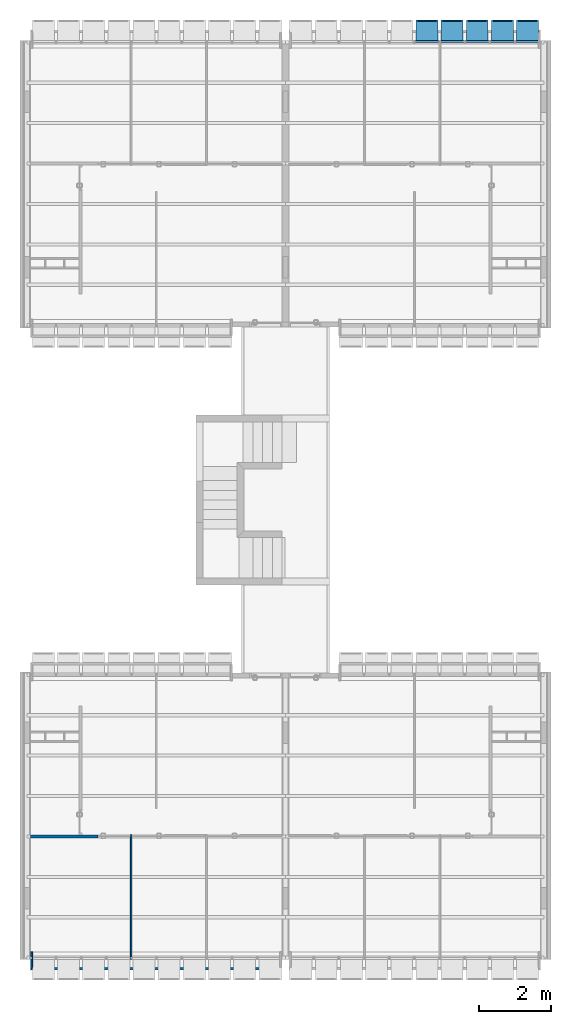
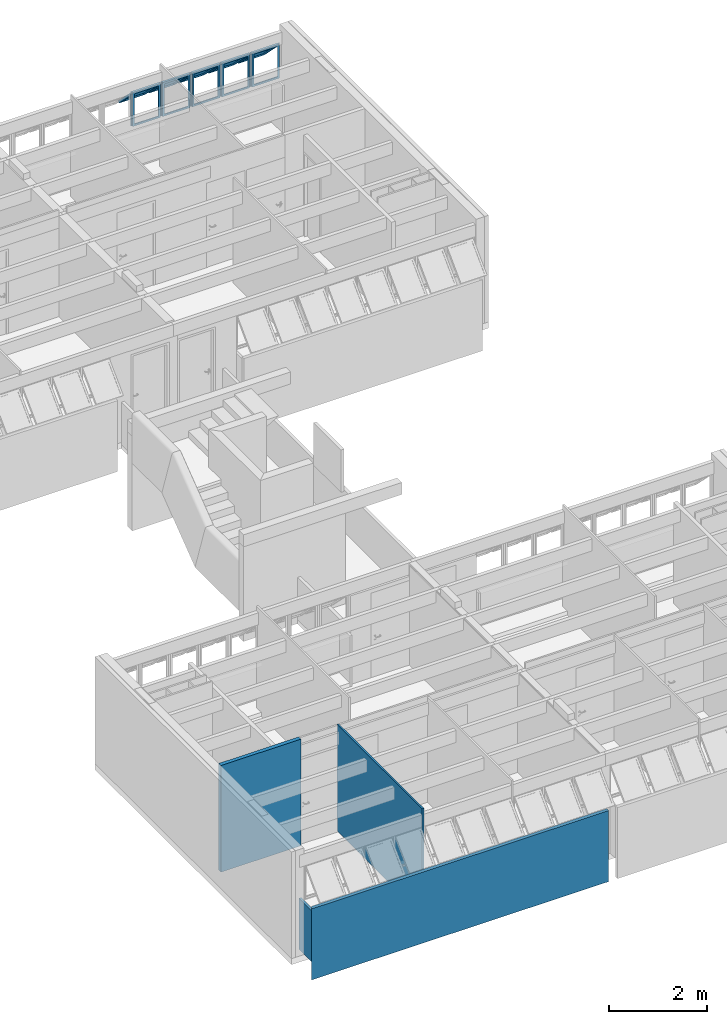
# One storey, part 17 of 41: 5 plates, 4 walls, 1 element without a shape of its own.
"""IFC4 building model written with IfcOpenShell, lengths in millimetres."""

from ifc_helpers import new_model, entity, si_unit, converted_unit, derived_unit, direction, frame, origin_with_axes, place, context, subcontext, project, spatial, line, indexed_curve, outline, extrude, polygons, source, transform, mapped, material, layer, layer_set, layer_usage, constituent, constituent_set, type_object, element, aggregate, save


model = new_model("IFC4")

# Units and contexts
model_context = context("Model", 3, precision=0.01, world=origin_with_axes(), true_north=direction((0.0, 1.0)))
body_context = subcontext(model_context, "Body", "Model", "MODEL_VIEW")
ifc_project = project(units=[si_unit("LENGTHUNIT", "METRE", prefix="MILLI"), si_unit("AREAUNIT", "SQUARE_METRE"), si_unit("VOLUMEUNIT", "CUBIC_METRE"), converted_unit("PLANEANGLEUNIT", "DEGREE", entity("IfcPlaneAngleMeasure", 0.0174532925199), si_unit("PLANEANGLEUNIT", "RADIAN"), dimensions=[0, 0, 0, 0, 0, 0, 0]), converted_unit("TIMEUNIT", "Year", entity("IfcTimeMeasure", 31556926.0), si_unit("TIMEUNIT", "SECOND"), dimensions=[0, 0, 1, 0, 0, 0, 0]), si_unit("MASSUNIT", "GRAM", prefix="KILO"), si_unit("THERMODYNAMICTEMPERATUREUNIT", "DEGREE_CELSIUS"), si_unit("LUMINOUSINTENSITYUNIT", "LUMEN"), si_unit("ENERGYUNIT", "JOULE", prefix="MEGA"), derived_unit("THERMALCONDUCTANCEUNIT", [(si_unit("POWERUNIT", "WATT"), 1), (si_unit("LENGTHUNIT", "METRE"), -1), (si_unit("THERMODYNAMICTEMPERATUREUNIT", "KELVIN"), -1)]), derived_unit("SPECIFICHEATCAPACITYUNIT", [(si_unit("ENERGYUNIT", "JOULE"), 1), (si_unit("MASSUNIT", "GRAM", prefix="KILO"), -1), (si_unit("THERMODYNAMICTEMPERATUREUNIT", "KELVIN"), -1)]), derived_unit("MASSDENSITYUNIT", [(si_unit("MASSUNIT", "GRAM", prefix="KILO"), 1), (si_unit("VOLUMEUNIT", "CUBIC_METRE"), -1)])], contexts=[model_context])

# Site, building, storey
site_placement = place(None, origin_with_axes())
site = spatial("IfcSite", under=ifc_project, at=site_placement, Name="Local", CompositionType="ELEMENT")
building_placement = place(site_placement, origin_with_axes())
building = spatial("IfcBuilding", under=site, at=building_placement, Name="Construção", CompositionType="ELEMENT")
storey_placement = place(building_placement, frame((0.0, 0.0, 2650.0), z_axis=(0.0, 0.0, 1.0), x_axis=(1.0, 0.0, 0.0)))
storey = spatial("IfcBuildingStorey", under=building, at=storey_placement, Name="Segundo Pavimento", CompositionType="ELEMENT", Elevation=2650.0)

# Window, plates
window_type = type_object("IfcWindowType", Name="Tipo de Parede Cortina", PartitioningType="NOTDEFINED", PredefinedType="NOTDEFINED")
window_placement = place(storey_placement, frame((8520.0, 25844.9790225, 1355.02054151), z_axis=(0.0, 0.0, 1.0), x_axis=(1.0, 0.0, 0.0)))
window = element("IfcWindow", 1, at=window_placement, inside=storey, type_object=window_type, Name="APTO8-JANELA-001", PredefinedType="NOTDEFINED")
ifc_material_1 = material(Name="Alumínio")
ifc_constituent_1 = constituent(ifc_material_1, Name="Alumínio")
ifc_material_2 = material(Name="Vidro")
ifc_constituent_2 = constituent(ifc_material_2, Name="Vidro")
ifc_constituent_set_1 = constituent_set(constituents=[ifc_constituent_1, ifc_constituent_2])
plate_type = type_object("IfcPlateType", Name="Painel Principal 690 x 845 x 20", PredefinedType="CURTAIN_PANEL")
shared_shape_1 = source(origin_with_axes(), body_context, "Body", "Tessellation", [
    polygons([(25.0000036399, 0.0, -40.0), (674.999997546, 0.0, -40.0), (674.999997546, 0.0, -35.0), (25.0000036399, 0.0, -35.0), (70.0000036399, 45.0, -40.0), (629.999997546, 45.0, -40.0), (629.999997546, 45.0, -35.0), (70.0000036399, 45.0, -35.0)], [[[1, 2, 3, 4]], [[1, 5, 6, 2]], [[2, 6, 7, 3]], [[4, 3, 7, 8]], [[5, 1, 4, 8]], [[6, 5, 8, 7]]], closed=True),
    polygons([(674.999997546, 0.0, -40.0), (674.999997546, 844.999891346, -40.0), (674.999997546, 844.999891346, -35.0), (674.999997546, 0.0, -35.0), (629.999997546, 45.0, -40.0), (629.999997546, 799.999891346, -40.0), (629.999997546, 799.999891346, -35.0), (629.999997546, 45.0, -35.0)], [[[1, 2, 3, 4]], [[1, 5, 6, 2]], [[2, 6, 7, 3]], [[4, 3, 7, 8]], [[5, 1, 4, 8]], [[6, 5, 8, 7]]], closed=True),
    polygons([(25.0000036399, 844.999891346, -40.0), (70.0000036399, 799.999891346, -40.0), (70.0000036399, 799.999891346, -35.0), (25.0000036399, 844.999891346, -35.0), (674.999997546, 844.999891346, -40.0), (629.999997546, 799.999891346, -40.0), (629.999997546, 799.999891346, -35.0), (674.999997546, 844.999891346, -35.0)], [[[1, 2, 3, 4]], [[1, 5, 6, 2]], [[2, 6, 7, 3]], [[4, 3, 7, 8]], [[5, 1, 4, 8]], [[6, 5, 8, 7]]], closed=True),
    polygons([(25.0000036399, 0.0, -40.0), (70.0000036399, 45.0, -40.0), (70.0000036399, 45.0, -35.0), (25.0000036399, 0.0, -35.0), (25.0000036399, 844.999891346, -40.0), (70.0000036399, 799.999891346, -40.0), (70.0000036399, 799.999891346, -35.0), (25.0000036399, 844.999891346, -35.0)], [[[1, 2, 3, 4]], [[1, 5, 6, 2]], [[2, 6, 7, 3]], [[4, 3, 7, 8]], [[5, 1, 4, 8]], [[6, 5, 8, 7]]], closed=True),
    polygons([(25.0000036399, 0.0, -35.0), (674.999997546, 0.0, -35.0), (674.999997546, 0.0, 15.0), (25.0000036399, 0.0, 15.0), (45.0000036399, 20.0, -35.0), (654.999997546, 20.0, -35.0), (654.999997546, 20.0, 15.0), (45.0000036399, 20.0, 15.0)], [[[1, 2, 3, 4]], [[1, 5, 6, 2]], [[2, 6, 7, 3]], [[4, 3, 7, 8]], [[5, 1, 4, 8]], [[6, 5, 8, 7]]], closed=True),
    polygons([(674.999997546, 0.0, -35.0), (674.999997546, 844.999891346, -35.0), (674.999997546, 844.999891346, 15.0), (674.999997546, 0.0, 15.0), (654.999997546, 20.0, -35.0), (654.999997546, 824.999891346, -35.0), (654.999997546, 824.999891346, 15.0), (654.999997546, 20.0, 15.0)], [[[1, 2, 3, 4]], [[1, 5, 6, 2]], [[2, 6, 7, 3]], [[4, 3, 7, 8]], [[5, 1, 4, 8]], [[6, 5, 8, 7]]], closed=True),
    polygons([(25.0000036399, 844.999891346, -35.0), (45.0000036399, 824.999891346, -35.0), (45.0000036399, 824.999891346, 15.0), (25.0000036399, 844.999891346, 15.0), (674.999997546, 844.999891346, -35.0), (654.999997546, 824.999891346, -35.0), (654.999997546, 824.999891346, 15.0), (674.999997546, 844.999891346, 15.0)], [[[1, 2, 3, 4]], [[1, 5, 6, 2]], [[2, 6, 7, 3]], [[4, 3, 7, 8]], [[5, 1, 4, 8]], [[6, 5, 8, 7]]], closed=True),
    polygons([(25.0000036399, 0.0, -35.0), (45.0000036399, 20.0, -35.0), (45.0000036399, 20.0, 15.0), (25.0000036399, 0.0, 15.0), (25.0000036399, 844.999891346, -35.0), (45.0000036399, 824.999891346, -35.0), (45.0000036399, 824.999891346, 15.0), (25.0000036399, 844.999891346, 15.0)], [[[1, 2, 3, 4]], [[1, 5, 6, 2]], [[2, 6, 7, 3]], [[4, 3, 7, 8]], [[5, 1, 4, 8]], [[6, 5, 8, 7]]], closed=True),
    polygons([(694.999995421, 0.0, -10.0), (694.999995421, 844.999891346, -10.0), (694.999995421, 844.999891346, 10.0), (694.999995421, 0.0, 10.0), (674.999997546, 0.0, -10.0), (674.999997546, 844.999891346, -10.0), (674.999997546, 844.999891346, 10.0), (674.999997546, 0.0, 10.0)], [[[1, 2, 3, 4]], [[1, 5, 6, 2]], [[2, 6, 7, 3]], [[4, 3, 7, 8]], [[5, 1, 4, 8]], [[6, 5, 8, 7]]], closed=True),
    polygons([(5.00000576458, 844.999891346, -10.0), (5.00000576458, 0.0, -10.0), (5.00000576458, 0.0, 10.0), (5.00000576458, 844.999891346, 10.0), (25.0000036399, 844.999891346, -10.0), (25.0000036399, 0.0, -10.0), (25.0000036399, 0.0, 10.0), (25.0000036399, 844.999891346, 10.0)], [[[1, 2, 3, 4]], [[1, 5, 6, 2]], [[2, 6, 7, 3]], [[4, 3, 7, 8]], [[5, 1, 4, 8]], [[6, 5, 8, 7]]], closed=True),
    polygons([(90.0000036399, 252.243475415, 517.045737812), (90.0000036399, 757.824747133, 11.4644660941), (90.0000036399, 796.715620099, 50.3553390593), (90.0000036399, 291.13434838, 555.936610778), (45.0000036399, 220.423670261, 548.865542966), (45.0000036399, 789.644552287, -20.3553390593), (45.0000036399, 828.535425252, 18.5355339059), (45.0000036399, 259.314543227, 587.756415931)], [[[1, 2, 3, 4]], [[1, 5, 6, 2]], [[2, 6, 7, 3]], [[4, 3, 7, 8]], [[5, 1, 4, 8]], [[6, 5, 8, 7]]], closed=True),
    polygons([(654.999997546, 220.423670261, 548.865542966), (654.999997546, 789.644552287, -20.3553390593), (654.999997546, 828.535425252, 18.5355339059), (654.999997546, 259.314543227, 587.756415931), (609.999997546, 252.243475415, 517.045737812), (609.999997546, 757.824747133, 11.4644660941), (609.999997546, 796.715620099, 50.3553390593), (609.999997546, 291.13434838, 555.936610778)], [[[1, 2, 3, 4]], [[1, 5, 6, 2]], [[2, 6, 7, 3]], [[4, 3, 7, 8]], [[5, 1, 4, 8]], [[6, 5, 8, 7]]], closed=True),
    polygons([(654.999997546, 220.423670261, 548.865542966), (609.999997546, 252.243475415, 517.045737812), (609.999997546, 291.13434838, 555.936610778), (654.999997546, 259.314543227, 587.756415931), (45.0000036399, 220.423670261, 548.865542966), (90.0000036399, 252.243475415, 517.045737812), (90.0000036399, 291.13434838, 555.936610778), (45.0000036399, 259.314543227, 587.756415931)], [[[1, 2, 3, 4]], [[1, 5, 6, 2]], [[2, 6, 7, 3]], [[4, 3, 7, 8]], [[5, 1, 4, 8]], [[6, 5, 8, 7]]], closed=True),
    polygons([(45.0000036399, 789.644552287, -20.3553390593), (90.0000036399, 757.824747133, 11.4644660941), (90.0000036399, 796.715620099, 50.3553390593), (45.0000036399, 828.535425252, 18.5355339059), (654.999997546, 789.644552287, -20.3553390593), (609.999997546, 757.824747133, 11.4644660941), (609.999997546, 796.715620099, 50.3553390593), (654.999997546, 828.535425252, 18.5355339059)], [[[1, 2, 3, 4]], [[1, 5, 6, 2]], [[2, 6, 7, 3]], [[4, 3, 7, 8]], [[5, 1, 4, 8]], [[6, 5, 8, 7]]], closed=True),
    polygons([(90.0000036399, 272.749572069, 537.551834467), (609.999997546, 272.749572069, 537.551834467), (609.999997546, 284.063280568, 548.865542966), (90.0000036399, 284.063280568, 548.865542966), (90.0000036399, 778.330843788, 31.9705627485), (609.999997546, 778.330843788, 31.9705627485), (609.999997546, 789.644552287, 43.2842712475), (90.0000036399, 789.644552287, 43.2842712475)], [[[1, 2, 3, 4]], [[1, 5, 6, 2]], [[2, 6, 7, 3]], [[4, 3, 7, 8]], [[5, 1, 4, 8]], [[6, 5, 8, 7]]], closed=True),
])
plate_1_placement = place(window_placement, frame((3500.0, 0.0, 422.499945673), z_axis=(0.0, 0.0, 1.0), x_axis=(1.0, 0.0, 0.0)))
plate_1 = element("IfcPlate", 2, at=plate_1_placement, type_object=plate_type, material=ifc_constituent_set_1, Name="APTO8-Painel-Prin-013", PredefinedType="CURTAIN_PANEL", context=body_context, shape_type="MappedRepresentation", body=[
    mapped(shared_shape_1, transform((350.0, 0.0, -422.499945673), x_axis=(-1.0, 0.0, 0.0), y_axis=(0.0, 0.0, 1.0), z_axis=(0.0, 1.0, 0.0))),
])
ifc_constituent_3 = constituent(ifc_material_1, Name="Alumínio")
ifc_constituent_4 = constituent(ifc_material_2, Name="Vidro")
ifc_constituent_set_2 = constituent_set(constituents=[ifc_constituent_3, ifc_constituent_4])
shared_shape_2 = source(origin_with_axes(), body_context, "Body", "Tessellation", [
    polygons([(25.0000036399, 0.0, -40.0), (674.999997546, 0.0, -40.0), (674.999997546, 0.0, -35.0), (25.0000036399, 0.0, -35.0), (70.0000036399, 45.0, -40.0), (629.999997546, 45.0, -40.0), (629.999997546, 45.0, -35.0), (70.0000036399, 45.0, -35.0)], [[[1, 2, 3, 4]], [[1, 5, 6, 2]], [[2, 6, 7, 3]], [[4, 3, 7, 8]], [[5, 1, 4, 8]], [[6, 5, 8, 7]]], closed=True),
    polygons([(674.999997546, 0.0, -40.0), (674.999997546, 844.999891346, -40.0), (674.999997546, 844.999891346, -35.0), (674.999997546, 0.0, -35.0), (629.999997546, 45.0, -40.0), (629.999997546, 799.999891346, -40.0), (629.999997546, 799.999891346, -35.0), (629.999997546, 45.0, -35.0)], [[[1, 2, 3, 4]], [[1, 5, 6, 2]], [[2, 6, 7, 3]], [[4, 3, 7, 8]], [[5, 1, 4, 8]], [[6, 5, 8, 7]]], closed=True),
    polygons([(25.0000036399, 844.999891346, -40.0), (70.0000036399, 799.999891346, -40.0), (70.0000036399, 799.999891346, -35.0), (25.0000036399, 844.999891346, -35.0), (674.999997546, 844.999891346, -40.0), (629.999997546, 799.999891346, -40.0), (629.999997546, 799.999891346, -35.0), (674.999997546, 844.999891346, -35.0)], [[[1, 2, 3, 4]], [[1, 5, 6, 2]], [[2, 6, 7, 3]], [[4, 3, 7, 8]], [[5, 1, 4, 8]], [[6, 5, 8, 7]]], closed=True),
    polygons([(25.0000036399, 0.0, -40.0), (70.0000036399, 45.0, -40.0), (70.0000036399, 45.0, -35.0), (25.0000036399, 0.0, -35.0), (25.0000036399, 844.999891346, -40.0), (70.0000036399, 799.999891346, -40.0), (70.0000036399, 799.999891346, -35.0), (25.0000036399, 844.999891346, -35.0)], [[[1, 2, 3, 4]], [[1, 5, 6, 2]], [[2, 6, 7, 3]], [[4, 3, 7, 8]], [[5, 1, 4, 8]], [[6, 5, 8, 7]]], closed=True),
    polygons([(25.0000036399, 0.0, -35.0), (674.999997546, 0.0, -35.0), (674.999997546, 0.0, 15.0), (25.0000036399, 0.0, 15.0), (45.0000036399, 20.0, -35.0), (654.999997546, 20.0, -35.0), (654.999997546, 20.0, 15.0), (45.0000036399, 20.0, 15.0)], [[[1, 2, 3, 4]], [[1, 5, 6, 2]], [[2, 6, 7, 3]], [[4, 3, 7, 8]], [[5, 1, 4, 8]], [[6, 5, 8, 7]]], closed=True),
    polygons([(674.999997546, 0.0, -35.0), (674.999997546, 844.999891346, -35.0), (674.999997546, 844.999891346, 15.0), (674.999997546, 0.0, 15.0), (654.999997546, 20.0, -35.0), (654.999997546, 824.999891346, -35.0), (654.999997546, 824.999891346, 15.0), (654.999997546, 20.0, 15.0)], [[[1, 2, 3, 4]], [[1, 5, 6, 2]], [[2, 6, 7, 3]], [[4, 3, 7, 8]], [[5, 1, 4, 8]], [[6, 5, 8, 7]]], closed=True),
    polygons([(25.0000036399, 844.999891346, -35.0), (45.0000036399, 824.999891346, -35.0), (45.0000036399, 824.999891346, 15.0), (25.0000036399, 844.999891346, 15.0), (674.999997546, 844.999891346, -35.0), (654.999997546, 824.999891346, -35.0), (654.999997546, 824.999891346, 15.0), (674.999997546, 844.999891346, 15.0)], [[[1, 2, 3, 4]], [[1, 5, 6, 2]], [[2, 6, 7, 3]], [[4, 3, 7, 8]], [[5, 1, 4, 8]], [[6, 5, 8, 7]]], closed=True),
    polygons([(25.0000036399, 0.0, -35.0), (45.0000036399, 20.0, -35.0), (45.0000036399, 20.0, 15.0), (25.0000036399, 0.0, 15.0), (25.0000036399, 844.999891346, -35.0), (45.0000036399, 824.999891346, -35.0), (45.0000036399, 824.999891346, 15.0), (25.0000036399, 844.999891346, 15.0)], [[[1, 2, 3, 4]], [[1, 5, 6, 2]], [[2, 6, 7, 3]], [[4, 3, 7, 8]], [[5, 1, 4, 8]], [[6, 5, 8, 7]]], closed=True),
    polygons([(694.999995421, 0.0, -10.0), (694.999995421, 844.999891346, -10.0), (694.999995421, 844.999891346, 10.0), (694.999995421, 0.0, 10.0), (674.999997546, 0.0, -10.0), (674.999997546, 844.999891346, -10.0), (674.999997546, 844.999891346, 10.0), (674.999997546, 0.0, 10.0)], [[[1, 2, 3, 4]], [[1, 5, 6, 2]], [[2, 6, 7, 3]], [[4, 3, 7, 8]], [[5, 1, 4, 8]], [[6, 5, 8, 7]]], closed=True),
    polygons([(5.00000576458, 844.999891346, -10.0), (5.00000576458, 0.0, -10.0), (5.00000576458, 0.0, 10.0), (5.00000576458, 844.999891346, 10.0), (25.0000036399, 844.999891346, -10.0), (25.0000036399, 0.0, -10.0), (25.0000036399, 0.0, 10.0), (25.0000036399, 844.999891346, 10.0)], [[[1, 2, 3, 4]], [[1, 5, 6, 2]], [[2, 6, 7, 3]], [[4, 3, 7, 8]], [[5, 1, 4, 8]], [[6, 5, 8, 7]]], closed=True),
    polygons([(90.0000036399, 252.243475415, 517.045737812), (90.0000036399, 757.824747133, 11.4644660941), (90.0000036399, 796.715620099, 50.3553390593), (90.0000036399, 291.13434838, 555.936610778), (45.0000036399, 220.423670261, 548.865542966), (45.0000036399, 789.644552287, -20.3553390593), (45.0000036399, 828.535425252, 18.5355339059), (45.0000036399, 259.314543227, 587.756415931)], [[[1, 2, 3, 4]], [[1, 5, 6, 2]], [[2, 6, 7, 3]], [[4, 3, 7, 8]], [[5, 1, 4, 8]], [[6, 5, 8, 7]]], closed=True),
    polygons([(654.999997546, 220.423670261, 548.865542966), (654.999997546, 789.644552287, -20.3553390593), (654.999997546, 828.535425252, 18.5355339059), (654.999997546, 259.314543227, 587.756415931), (609.999997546, 252.243475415, 517.045737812), (609.999997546, 757.824747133, 11.4644660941), (609.999997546, 796.715620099, 50.3553390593), (609.999997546, 291.13434838, 555.936610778)], [[[1, 2, 3, 4]], [[1, 5, 6, 2]], [[2, 6, 7, 3]], [[4, 3, 7, 8]], [[5, 1, 4, 8]], [[6, 5, 8, 7]]], closed=True),
    polygons([(654.999997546, 220.423670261, 548.865542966), (609.999997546, 252.243475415, 517.045737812), (609.999997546, 291.13434838, 555.936610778), (654.999997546, 259.314543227, 587.756415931), (45.0000036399, 220.423670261, 548.865542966), (90.0000036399, 252.243475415, 517.045737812), (90.0000036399, 291.13434838, 555.936610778), (45.0000036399, 259.314543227, 587.756415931)], [[[1, 2, 3, 4]], [[1, 5, 6, 2]], [[2, 6, 7, 3]], [[4, 3, 7, 8]], [[5, 1, 4, 8]], [[6, 5, 8, 7]]], closed=True),
    polygons([(45.0000036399, 789.644552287, -20.3553390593), (90.0000036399, 757.824747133, 11.4644660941), (90.0000036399, 796.715620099, 50.3553390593), (45.0000036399, 828.535425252, 18.5355339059), (654.999997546, 789.644552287, -20.3553390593), (609.999997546, 757.824747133, 11.4644660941), (609.999997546, 796.715620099, 50.3553390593), (654.999997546, 828.535425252, 18.5355339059)], [[[1, 2, 3, 4]], [[1, 5, 6, 2]], [[2, 6, 7, 3]], [[4, 3, 7, 8]], [[5, 1, 4, 8]], [[6, 5, 8, 7]]], closed=True),
    polygons([(90.0000036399, 272.749572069, 537.551834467), (609.999997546, 272.749572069, 537.551834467), (609.999997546, 284.063280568, 548.865542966), (90.0000036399, 284.063280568, 548.865542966), (90.0000036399, 778.330843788, 31.9705627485), (609.999997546, 778.330843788, 31.9705627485), (609.999997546, 789.644552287, 43.2842712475), (90.0000036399, 789.644552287, 43.2842712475)], [[[1, 2, 3, 4]], [[1, 5, 6, 2]], [[2, 6, 7, 3]], [[4, 3, 7, 8]], [[5, 1, 4, 8]], [[6, 5, 8, 7]]], closed=True),
])
plate_2_placement = place(window_placement, frame((5600.0, 0.0, 422.499945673), z_axis=(0.0, 0.0, 1.0), x_axis=(1.0, 0.0, 0.0)))
plate_2 = element("IfcPlate", 3, at=plate_2_placement, type_object=plate_type, material=ifc_constituent_set_2, Name="APTO8-Painel-Prin-013", PredefinedType="CURTAIN_PANEL", context=body_context, shape_type="MappedRepresentation", body=[
    mapped(shared_shape_2, transform((350.0, 0.0, -422.499945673), x_axis=(-1.0, 0.0, 0.0), y_axis=(0.0, 0.0, 1.0), z_axis=(0.0, 1.0, 0.0))),
])
ifc_constituent_5 = constituent(ifc_material_1, Name="Alumínio")
ifc_constituent_6 = constituent(ifc_material_2, Name="Vidro")
ifc_constituent_set_3 = constituent_set(constituents=[ifc_constituent_5, ifc_constituent_6])
plate_3_placement = place(window_placement, frame((4900.0, 0.0, 422.499945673), z_axis=(0.0, 0.0, 1.0), x_axis=(1.0, 0.0, 0.0)))
plate_3 = element("IfcPlate", 4, at=plate_3_placement, type_object=plate_type, material=ifc_constituent_set_3, Name="APTO8-Painel-Prin-013", PredefinedType="CURTAIN_PANEL", context=body_context, shape_type="MappedRepresentation", body=[
    mapped(shared_shape_2, transform((350.0, 0.0, -422.499945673), x_axis=(-1.0, 0.0, 0.0), y_axis=(0.0, 0.0, 1.0), z_axis=(0.0, 1.0, 0.0))),
])
ifc_constituent_7 = constituent(ifc_material_1, Name="Alumínio")
ifc_constituent_8 = constituent(ifc_material_2, Name="Vidro")
ifc_constituent_set_4 = constituent_set(constituents=[ifc_constituent_7, ifc_constituent_8])
shared_shape_3 = source(origin_with_axes(), body_context, "Body", "Tessellation", [
    polygons([(25.0000036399, 0.0, -40.0), (674.999997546, 0.0, -40.0), (674.999997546, 0.0, -35.0), (25.0000036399, 0.0, -35.0), (70.0000036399, 45.0, -40.0), (629.999997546, 45.0, -40.0), (629.999997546, 45.0, -35.0), (70.0000036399, 45.0, -35.0)], [[[1, 2, 3, 4]], [[1, 5, 6, 2]], [[2, 6, 7, 3]], [[4, 3, 7, 8]], [[5, 1, 4, 8]], [[6, 5, 8, 7]]], closed=True),
    polygons([(674.999997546, 0.0, -40.0), (674.999997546, 844.999891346, -40.0), (674.999997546, 844.999891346, -35.0), (674.999997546, 0.0, -35.0), (629.999997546, 45.0, -40.0), (629.999997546, 799.999891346, -40.0), (629.999997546, 799.999891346, -35.0), (629.999997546, 45.0, -35.0)], [[[1, 2, 3, 4]], [[1, 5, 6, 2]], [[2, 6, 7, 3]], [[4, 3, 7, 8]], [[5, 1, 4, 8]], [[6, 5, 8, 7]]], closed=True),
    polygons([(25.0000036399, 844.999891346, -40.0), (70.0000036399, 799.999891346, -40.0), (70.0000036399, 799.999891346, -35.0), (25.0000036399, 844.999891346, -35.0), (674.999997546, 844.999891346, -40.0), (629.999997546, 799.999891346, -40.0), (629.999997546, 799.999891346, -35.0), (674.999997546, 844.999891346, -35.0)], [[[1, 2, 3, 4]], [[1, 5, 6, 2]], [[2, 6, 7, 3]], [[4, 3, 7, 8]], [[5, 1, 4, 8]], [[6, 5, 8, 7]]], closed=True),
    polygons([(25.0000036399, 0.0, -40.0), (70.0000036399, 45.0, -40.0), (70.0000036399, 45.0, -35.0), (25.0000036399, 0.0, -35.0), (25.0000036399, 844.999891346, -40.0), (70.0000036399, 799.999891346, -40.0), (70.0000036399, 799.999891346, -35.0), (25.0000036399, 844.999891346, -35.0)], [[[1, 2, 3, 4]], [[1, 5, 6, 2]], [[2, 6, 7, 3]], [[4, 3, 7, 8]], [[5, 1, 4, 8]], [[6, 5, 8, 7]]], closed=True),
    polygons([(25.0000036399, 0.0, -35.0), (674.999997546, 0.0, -35.0), (674.999997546, 0.0, 15.0), (25.0000036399, 0.0, 15.0), (45.0000036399, 20.0, -35.0), (654.999997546, 20.0, -35.0), (654.999997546, 20.0, 15.0), (45.0000036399, 20.0, 15.0)], [[[1, 2, 3, 4]], [[1, 5, 6, 2]], [[2, 6, 7, 3]], [[4, 3, 7, 8]], [[5, 1, 4, 8]], [[6, 5, 8, 7]]], closed=True),
    polygons([(674.999997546, 0.0, -35.0), (674.999997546, 844.999891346, -35.0), (674.999997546, 844.999891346, 15.0), (674.999997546, 0.0, 15.0), (654.999997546, 20.0, -35.0), (654.999997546, 824.999891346, -35.0), (654.999997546, 824.999891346, 15.0), (654.999997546, 20.0, 15.0)], [[[1, 2, 3, 4]], [[1, 5, 6, 2]], [[2, 6, 7, 3]], [[4, 3, 7, 8]], [[5, 1, 4, 8]], [[6, 5, 8, 7]]], closed=True),
    polygons([(25.0000036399, 844.999891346, -35.0), (45.0000036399, 824.999891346, -35.0), (45.0000036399, 824.999891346, 15.0), (25.0000036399, 844.999891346, 15.0), (674.999997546, 844.999891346, -35.0), (654.999997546, 824.999891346, -35.0), (654.999997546, 824.999891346, 15.0), (674.999997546, 844.999891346, 15.0)], [[[1, 2, 3, 4]], [[1, 5, 6, 2]], [[2, 6, 7, 3]], [[4, 3, 7, 8]], [[5, 1, 4, 8]], [[6, 5, 8, 7]]], closed=True),
    polygons([(25.0000036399, 0.0, -35.0), (45.0000036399, 20.0, -35.0), (45.0000036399, 20.0, 15.0), (25.0000036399, 0.0, 15.0), (25.0000036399, 844.999891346, -35.0), (45.0000036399, 824.999891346, -35.0), (45.0000036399, 824.999891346, 15.0), (25.0000036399, 844.999891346, 15.0)], [[[1, 2, 3, 4]], [[1, 5, 6, 2]], [[2, 6, 7, 3]], [[4, 3, 7, 8]], [[5, 1, 4, 8]], [[6, 5, 8, 7]]], closed=True),
    polygons([(694.999995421, 0.0, -10.0), (694.999995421, 844.999891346, -10.0), (694.999995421, 844.999891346, 10.0), (694.999995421, 0.0, 10.0), (674.999997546, 0.0, -10.0), (674.999997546, 844.999891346, -10.0), (674.999997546, 844.999891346, 10.0), (674.999997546, 0.0, 10.0)], [[[1, 2, 3, 4]], [[1, 5, 6, 2]], [[2, 6, 7, 3]], [[4, 3, 7, 8]], [[5, 1, 4, 8]], [[6, 5, 8, 7]]], closed=True),
    polygons([(5.00000576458, 844.999891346, -10.0), (5.00000576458, 0.0, -10.0), (5.00000576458, 0.0, 10.0), (5.00000576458, 844.999891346, 10.0), (25.0000036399, 844.999891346, -10.0), (25.0000036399, 0.0, -10.0), (25.0000036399, 0.0, 10.0), (25.0000036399, 844.999891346, 10.0)], [[[1, 2, 3, 4]], [[1, 5, 6, 2]], [[2, 6, 7, 3]], [[4, 3, 7, 8]], [[5, 1, 4, 8]], [[6, 5, 8, 7]]], closed=True),
    polygons([(90.0000036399, 252.243475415, 517.045737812), (90.0000036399, 757.824747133, 11.4644660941), (90.0000036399, 796.715620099, 50.3553390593), (90.0000036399, 291.13434838, 555.936610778), (45.0000036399, 220.423670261, 548.865542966), (45.0000036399, 789.644552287, -20.3553390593), (45.0000036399, 828.535425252, 18.5355339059), (45.0000036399, 259.314543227, 587.756415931)], [[[1, 2, 3, 4]], [[1, 5, 6, 2]], [[2, 6, 7, 3]], [[4, 3, 7, 8]], [[5, 1, 4, 8]], [[6, 5, 8, 7]]], closed=True),
    polygons([(654.999997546, 220.423670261, 548.865542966), (654.999997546, 789.644552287, -20.3553390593), (654.999997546, 828.535425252, 18.5355339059), (654.999997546, 259.314543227, 587.756415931), (609.999997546, 252.243475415, 517.045737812), (609.999997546, 757.824747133, 11.4644660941), (609.999997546, 796.715620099, 50.3553390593), (609.999997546, 291.13434838, 555.936610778)], [[[1, 2, 3, 4]], [[1, 5, 6, 2]], [[2, 6, 7, 3]], [[4, 3, 7, 8]], [[5, 1, 4, 8]], [[6, 5, 8, 7]]], closed=True),
    polygons([(654.999997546, 220.423670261, 548.865542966), (609.999997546, 252.243475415, 517.045737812), (609.999997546, 291.13434838, 555.936610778), (654.999997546, 259.314543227, 587.756415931), (45.0000036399, 220.423670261, 548.865542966), (90.0000036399, 252.243475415, 517.045737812), (90.0000036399, 291.13434838, 555.936610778), (45.0000036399, 259.314543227, 587.756415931)], [[[1, 2, 3, 4]], [[1, 5, 6, 2]], [[2, 6, 7, 3]], [[4, 3, 7, 8]], [[5, 1, 4, 8]], [[6, 5, 8, 7]]], closed=True),
    polygons([(45.0000036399, 789.644552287, -20.3553390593), (90.0000036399, 757.824747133, 11.4644660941), (90.0000036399, 796.715620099, 50.3553390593), (45.0000036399, 828.535425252, 18.5355339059), (654.999997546, 789.644552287, -20.3553390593), (609.999997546, 757.824747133, 11.4644660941), (609.999997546, 796.715620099, 50.3553390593), (654.999997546, 828.535425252, 18.5355339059)], [[[1, 2, 3, 4]], [[1, 5, 6, 2]], [[2, 6, 7, 3]], [[4, 3, 7, 8]], [[5, 1, 4, 8]], [[6, 5, 8, 7]]], closed=True),
    polygons([(90.0000036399, 272.749572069, 537.551834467), (609.999997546, 272.749572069, 537.551834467), (609.999997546, 284.063280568, 548.865542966), (90.0000036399, 284.063280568, 548.865542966), (90.0000036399, 778.330843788, 31.9705627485), (609.999997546, 778.330843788, 31.9705627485), (609.999997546, 789.644552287, 43.2842712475), (90.0000036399, 789.644552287, 43.2842712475)], [[[1, 2, 3, 4]], [[1, 5, 6, 2]], [[2, 6, 7, 3]], [[4, 3, 7, 8]], [[5, 1, 4, 8]], [[6, 5, 8, 7]]], closed=True),
])
plate_4_placement = place(window_placement, frame((2800.0, 0.0, 422.499945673), z_axis=(0.0, 0.0, 1.0), x_axis=(1.0, 0.0, 0.0)))
plate_4 = element("IfcPlate", 5, at=plate_4_placement, type_object=plate_type, material=ifc_constituent_set_4, Name="APTO8-Painel-Prin-013", PredefinedType="CURTAIN_PANEL", context=body_context, shape_type="MappedRepresentation", body=[
    mapped(shared_shape_3, transform((350.0, 0.0, -422.499945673), x_axis=(-1.0, 0.0, 0.0), y_axis=(0.0, 0.0, 1.0), z_axis=(0.0, 1.0, 0.0))),
])
ifc_constituent_9 = constituent(ifc_material_1, Name="Alumínio")
ifc_constituent_10 = constituent(ifc_material_2, Name="Vidro")
ifc_constituent_set_5 = constituent_set(constituents=[ifc_constituent_9, ifc_constituent_10])
plate_5_placement = place(window_placement, frame((4200.0, 0.0, 422.499945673), z_axis=(0.0, 0.0, 1.0), x_axis=(1.0, 0.0, 0.0)))
plate_5 = element("IfcPlate", 6, at=plate_5_placement, type_object=plate_type, material=ifc_constituent_set_5, Name="APTO8-Painel-Prin-013", PredefinedType="CURTAIN_PANEL", context=body_context, shape_type="MappedRepresentation", body=[
    mapped(shared_shape_3, transform((350.0, 0.0, -422.499945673), x_axis=(-1.0, 0.0, 0.0), y_axis=(0.0, 0.0, 1.0), z_axis=(0.0, 1.0, 0.0))),
])
aggregate(window, [plate_2, plate_3, plate_4, plate_5, plate_1])

# Walls
ifc_material_3 = material(Name="GENÉRICO - VEDAÇÃO EXTERNA")
ifc_layer_1 = layer(ifc_material_3, 40.0, ventilated="UNKNOWN", Name="GENÉRICO - VEDAÇÃO EXTERNA")
ifc_layer_set_1 = layer_set([ifc_layer_1], Name="GENÉRICO - VEDAÇÃO EXTERNA 40")
ifc_layer_usage_1 = layer_usage(ifc_layer_set_1, "AXIS2", "NEGATIVE", 0.0)
wall_type_1 = type_object("IfcWallType", Name="GENÉRICO - VEDAÇÃO EXTERNA 40", PredefinedType="NOTDEFINED")
wall_1_placement = place(storey_placement, frame((3110.0, 3765.0, 0.0), z_axis=(0.0, 0.0, 1.0), x_axis=(0.0, -1.0, 0.0)))
element("IfcWall", 7, at=wall_1_placement, inside=storey, type_object=wall_type_1, material=ifc_layer_usage_1, Name="APTO5-PAREDE-007", PredefinedType="NOTDEFINED", context=body_context, shape_type="SweptSolid", body=[
    extrude(outline(indexed_curve([(0.0, -40.0), (3465.0, -40.0), (3465.0, 0.0), (0.0, 0.0)], segments=[line(1, 2, 3, 4, 1)])), origin_with_axes(), (0.0, 0.0, 1.0), 2650.0),
])
ifc_layer_2 = layer(ifc_material_3, 90.0, ventilated="UNKNOWN", Name="GENÉRICO - VEDAÇÃO EXTERNA")
ifc_layer_set_2 = layer_set([ifc_layer_2], Name="GENÉRICO - VEDAÇÃO EXTERNA 90")
ifc_layer_usage_2 = layer_usage(ifc_layer_set_2, "AXIS2", "NEGATIVE", 0.0)
wall_type_2 = type_object("IfcWallType", Name="GENÉRICO - VEDAÇÃO EXTERNA 90", PredefinedType="NOTDEFINED")
wall_2_placement = place(storey_placement, frame((290.0, 3765.2195667, 0.0), z_axis=(0.0, 0.0, 1.0), x_axis=(1.0, 0.0, 0.0)))
element("IfcWall", 8, at=wall_2_placement, inside=storey, type_object=wall_type_2, material=ifc_layer_usage_2, Name="APTO5-PAREDE-019", PredefinedType="NOTDEFINED", context=body_context, shape_type="SweptSolid", body=[
    extrude(outline(indexed_curve([(0.0, -90.0), (1879.99807021, -90.0), (1880.0, 0.0), (0.0, 0.0)], segments=[line(1, 2, 3, 4, 1)])), origin_with_axes(), (0.0, 0.0, 1.0), 2650.0),
])
ifc_material_4 = material(Name="Concreto Armado Moldado in Loco - Estrutural")
ifc_layer_3 = layer(ifc_material_4, 50.0, ventilated="UNKNOWN", Name="Concreto Armado Moldado in Loco - Estrutural")
ifc_layer_set_3 = layer_set([ifc_layer_3], Name="Concreto Armado Moldado in Loco - Estrutural 50")
ifc_layer_usage_3 = layer_usage(ifc_layer_set_3, "AXIS2", "NEGATIVE", 50.0)
wall_type_3 = type_object("IfcWallType", Name="Concreto Armado Moldado in Loco - Estrutural 50", PredefinedType="NOTDEFINED")
wall_3_placement = place(storey_placement, frame((300.0, 510.0, 0.0), z_axis=(0.0, 0.0, 1.0), x_axis=(0.0, -1.0, 0.0)))
element("IfcWall", 9, at=wall_3_placement, inside=storey, type_object=wall_type_3, material=ifc_layer_usage_3, Name="APTO5-PAREDE-002", PredefinedType="NOTDEFINED", context=body_context, shape_type="SweptSolid", body=[
    extrude(outline(indexed_curve([(0.0, 0.0), (510.0, 0.0), (430.0, 50.0), (0.0, 50.0)], segments=[line(1, 2, 3, 4, 1)])), origin_with_axes(), (0.0, 0.0, 1.0), 1270.0),
])
ifc_layer_4 = layer(ifc_material_4, 80.0, ventilated="UNKNOWN", Name="Concreto Armado Moldado in Loco - Estrutural")
ifc_layer_set_4 = layer_set([ifc_layer_4], Name="Concreto Armado Moldado in Loco - Estrutural 80")
ifc_layer_usage_4 = layer_usage(ifc_layer_set_4, "AXIS2", "POSITIVE", -80.0)
wall_type_4 = type_object("IfcWallType", Name="Concreto Armado Moldado in Loco - Estrutural 80", PredefinedType="NOTDEFINED")
wall_4_placement = place(storey_placement, frame((300.0, 80.0, -450.0), z_axis=(0.0, 0.0, 1.0), x_axis=(1.0, 0.0, 0.0)))
element("IfcWall", 10, at=wall_4_placement, inside=storey, type_object=wall_type_4, material=ifc_layer_usage_4, Name="APTO5-PAREDE-015", PredefinedType="NOTDEFINED", context=body_context, shape_type="SweptSolid", body=[
    extrude(outline(indexed_curve([(0.0, -80.0), (6980.0, -80.0), (6980.0, 0.0), (50.0, 0.0)], segments=[line(1, 2, 3, 4, 1)])), origin_with_axes(), (0.0, 0.0, 1.0), 1765.0),
])

save(model, "model.ifc")
